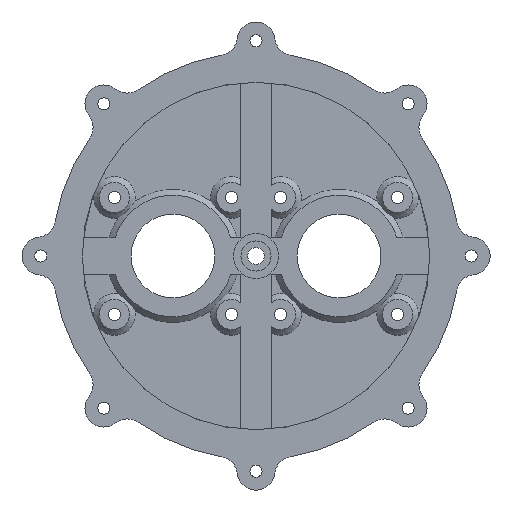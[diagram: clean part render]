
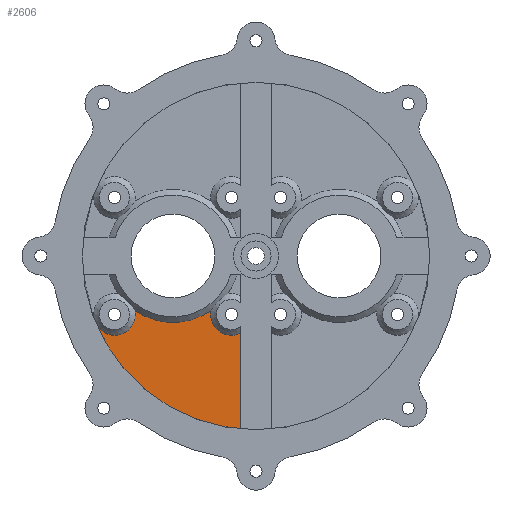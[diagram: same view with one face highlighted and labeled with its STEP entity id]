
A CAD part, front view. The second image highlights one B-rep face of the part: STEP entity #2606.
In plain terms, the highlighted planar face has unit normal (0, -1, 0).
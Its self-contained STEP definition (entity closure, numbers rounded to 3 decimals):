
#134=PLANE('',#2891);
#227=FACE_OUTER_BOUND('',#397,.T.);
#397=EDGE_LOOP('',(#1973,#1974,#1975,#1976,#1977,#1978));
#567=LINE('',#4344,#723);
#723=VECTOR('',#3494,10.);
#927=CIRCLE('',#2887,5.5);
#929=CIRCLE('',#2889,5.5);
#931=CIRCLE('',#2892,46.);
#932=CIRCLE('',#2893,5.5);
#933=CIRCLE('',#2894,17.6);
#1148=VERTEX_POINT('',#4314);
#1149=VERTEX_POINT('',#4316);
#1152=VERTEX_POINT('',#4331);
#1153=VERTEX_POINT('',#4341);
#1154=VERTEX_POINT('',#4343);
#1155=VERTEX_POINT('',#4345);
#1457=EDGE_CURVE('',#1149,#1148,#927,.T.);
#1461=EDGE_CURVE('',#1148,#1152,#929,.T.);
#1463=EDGE_CURVE('',#1153,#1152,#931,.T.);
#1464=EDGE_CURVE('',#1153,#1154,#567,.T.);
#1465=EDGE_CURVE('',#1154,#1155,#932,.T.);
#1466=EDGE_CURVE('',#1155,#1149,#933,.T.);
#1973=ORIENTED_EDGE('',*,*,#1463,.F.);
#1974=ORIENTED_EDGE('',*,*,#1464,.T.);
#1975=ORIENTED_EDGE('',*,*,#1465,.T.);
#1976=ORIENTED_EDGE('',*,*,#1466,.T.);
#1977=ORIENTED_EDGE('',*,*,#1457,.T.);
#1978=ORIENTED_EDGE('',*,*,#1461,.T.);
#2606=ADVANCED_FACE('',(#227),#134,.T.);
#2887=AXIS2_PLACEMENT_3D('',#4317,#3482,#3483);
#2889=AXIS2_PLACEMENT_3D('',#4338,#3486,#3487);
#2891=AXIS2_PLACEMENT_3D('',#4340,#3490,#3491);
#2892=AXIS2_PLACEMENT_3D('',#4342,#3492,#3493);
#2893=AXIS2_PLACEMENT_3D('',#4346,#3495,#3496);
#2894=AXIS2_PLACEMENT_3D('',#4347,#3497,#3498);
#3482=DIRECTION('center_axis',(0.,1.,0.));
#3483=DIRECTION('ref_axis',(-1.,0.,0.));
#3486=DIRECTION('center_axis',(0.,1.,0.));
#3487=DIRECTION('ref_axis',(-1.,0.,0.));
#3490=DIRECTION('center_axis',(0.,-1.,0.));
#3491=DIRECTION('ref_axis',(0.,0.,1.));
#3492=DIRECTION('center_axis',(0.,1.,0.));
#3493=DIRECTION('ref_axis',(1.,0.,0.));
#3494=DIRECTION('',(0.,0.,1.));
#3495=DIRECTION('center_axis',(0.,1.,0.));
#3496=DIRECTION('ref_axis',(-1.,0.,0.));
#3497=DIRECTION('center_axis',(0.,1.,0.));
#3498=DIRECTION('ref_axis',(1.,0.,0.));
#4314=CARTESIAN_POINT('',(-32.,24.,-15.5));
#4316=CARTESIAN_POINT('',(-32.11,24.,-14.407));
#4317=CARTESIAN_POINT('Origin',(-37.5,24.,-15.5));
#4331=CARTESIAN_POINT('',(-42.129,24.,-18.47));
#4338=CARTESIAN_POINT('Origin',(-37.5,24.,-15.5));
#4340=CARTESIAN_POINT('Origin',(-26.372,24.,-26.918));
#4341=CARTESIAN_POINT('',(-4.,24.,-45.826));
#4342=CARTESIAN_POINT('Origin',(0.,24.,0.));
#4343=CARTESIAN_POINT('',(-4.,24.,-20.399));
#4344=CARTESIAN_POINT('',(-4.,24.,-37.877));
#4345=CARTESIAN_POINT('',(-11.89,24.,-14.407));
#4346=CARTESIAN_POINT('Origin',(-6.5,24.,-15.5));
#4347=CARTESIAN_POINT('Origin',(-22.,24.,0.));
